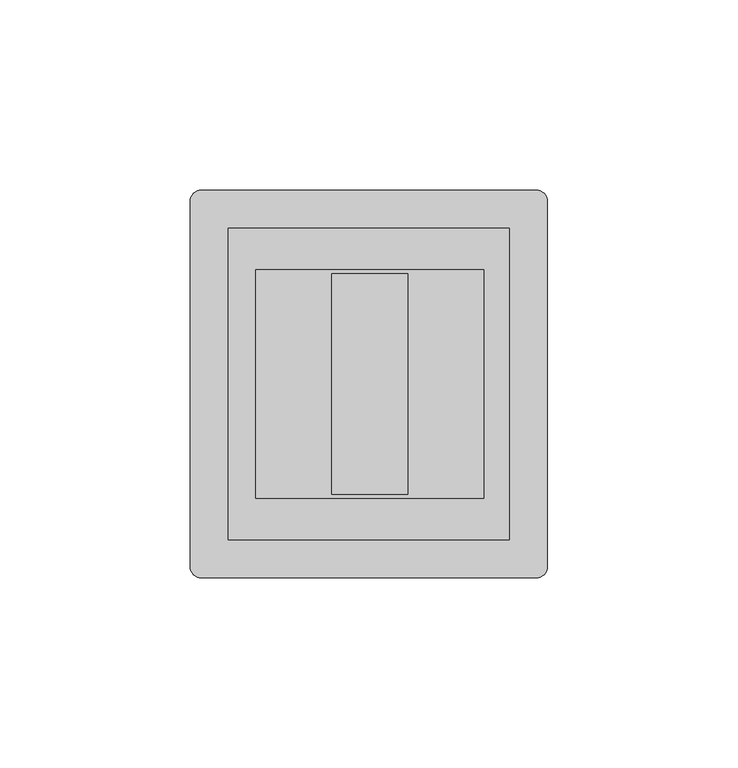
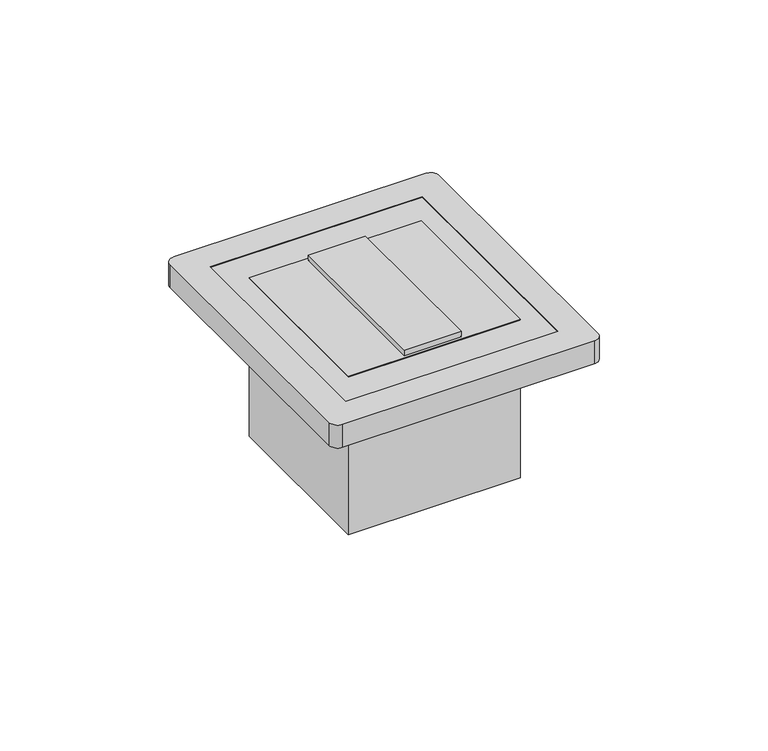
"""IFC4 building model written with IfcOpenShell, lengths in millimetres: switching device geometry, TWO WAY ONE GANG LIGHTING SWICH : TWO WAY ONE GANG LIGHTING SWICH."""

from ifc_helpers import new_model, si_unit, point, frame, frame_2d, origin, origin_with_axes, place, context, project, spatial, polyline, circle_curve, trimmed, segment, composite_curve, outline, extrude, source, transform, mapped, element, save


def switching_device_8f59fbb7(model_context):
    return source(origin(), model_context, "Body", "SweptSolid", [
        extrude(outline(composite_curve([segment(trimmed(circle_curve(frame_2d((-44.25, 48.0)), 3.0), [point((-47.25, 48.0))], [point((-44.25, 51.0))], False, "CARTESIAN"), True, "CONTINUOUS"), segment(polyline([(-44.25, 51.0), (43.75, 51.0)]), True, "CONTINUOUS"), segment(trimmed(circle_curve(frame_2d((43.75, 48.0)), 3.0), [point((43.75, 51.0))], [point((46.75, 48.0))], False, "CARTESIAN"), True, "CONTINUOUS"), segment(polyline([(46.75, 48.0), (46.75, -48.0)]), True, "CONTINUOUS"), segment(trimmed(circle_curve(frame_2d((43.75, -48.0)), 3.0), [point((46.75, -48.0))], [point((43.75, -51.0))], False, "CARTESIAN"), True, "CONTINUOUS"), segment(polyline([(43.75, -51.0), (-44.25, -51.0)]), True, "CONTINUOUS"), segment(trimmed(circle_curve(frame_2d((-44.25, -48.0)), 3.0), [point((-44.25, -51.0))], [point((-47.25, -48.0))], False, "CARTESIAN"), True, "CONTINUOUS"), segment(polyline([(-47.25, -48.0), (-47.25, 48.0)]), True, "CONTINUOUS")], self_intersect=False), holes=[polyline([(-37.25, -41.0), (36.75, -41.0), (36.75, 41.0), (-37.25, 41.0), (-37.25, -41.0)])]), origin_with_axes(), (0.0, 0.0, 1.0), 8.5),
        extrude(outline(polyline([(30.0, 30.0), (30.0, -30.0), (-30.0, -30.0), (-30.0, 30.0), (30.0, 30.0)]), holes=[polyline([(-9.9454494, 29.0), (-9.9454494, -29.0), (10.0, -29.0), (10.0, 29.0), (-9.9454494, 29.0)])]), frame((0.0, 0.0, -50.0), z_axis=(0.0, 0.0, 1.0), x_axis=(1.0, 0.0, 0.0)), (0.0, 0.0, 1.0), 58.5),
        extrude(outline(polyline([(10.0, -29.0), (-9.9454494, -29.0), (-9.9454494, 29.0), (10.0, 29.0), (10.0, -29.0)])), frame((0.0, 0.0, -50.0), z_axis=(0.0, 0.0, 1.0), x_axis=(1.0, 0.0, 0.0)), (0.0, 0.0, 1.0), 60.5),
        extrude(outline(polyline([(-37.25, -41.0), (-37.25, 41.0), (36.75, 41.0), (36.75, -41.0), (-37.25, -41.0)]), holes=[polyline([(30.0, 30.0), (-30.0, 30.0), (-30.0, -30.0), (30.0, -30.0), (30.0, 30.0)])]), origin_with_axes(), (0.0, 0.0, 1.0), 8.5),
    ])


if __name__ == "__main__":
    model = new_model("IFC4")
    model_context = context("Model", 3, world=origin())
    ifc_project = project(units=[si_unit("LENGTHUNIT", "METRE", prefix="MILLI")], contexts=[model_context])
    site = spatial("IfcSite", under=ifc_project)
    building = spatial("IfcBuilding", under=site)
    placement = place(None, origin())
    switching_device_shape = switching_device_8f59fbb7(model_context)
    element("IfcSwitchingDevice", 1, ObjectType="TWO WAY ONE GANG LIGHTING SWICH : TWO WAY ONE GANG LIGHTING SWICH", at=placement, inside=building, context=model_context, shape_type="MappedRepresentation", body=[
        mapped(switching_device_shape, transform((0.0, 0.0, 0.0), x_axis=(1.0, 0.0, 0.0), y_axis=(0.0, 1.0, 0.0), z_axis=(0.0, 0.0, 1.0))),
    ])
    save(model, "model.ifc")
